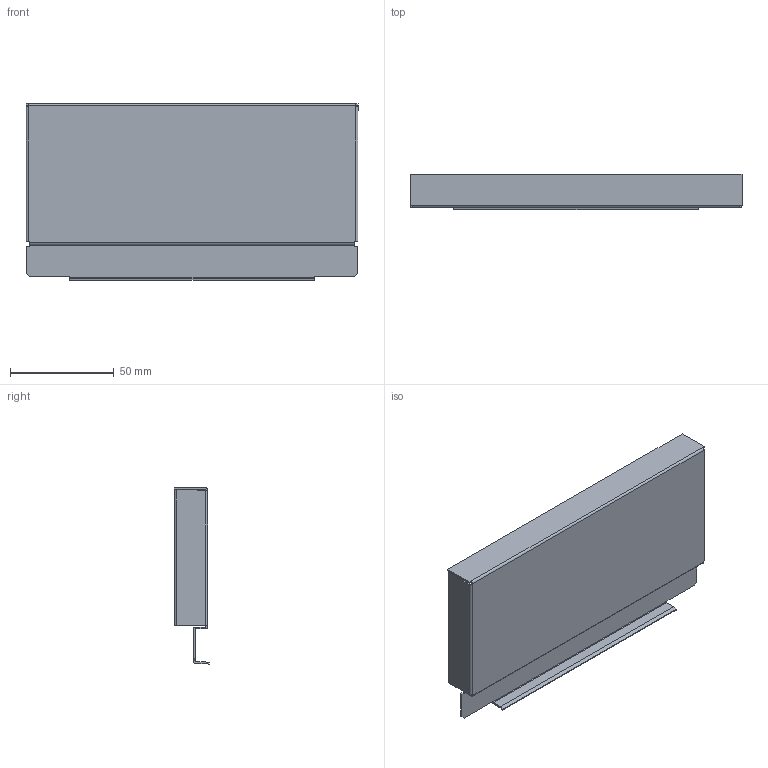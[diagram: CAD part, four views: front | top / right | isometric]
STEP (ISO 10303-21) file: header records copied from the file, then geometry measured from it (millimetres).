
FILE_DESCRIPTION (( 'STEP AP214' ), '1' );
FILE_NAME ('_STRW_H90_KAB_250.step', '2010-08-24T14:40:10', ( 'grass' ), ( '' ), 'SwSTEP 2.0', 'SolidWorks 2009', '' );
FILE_SCHEMA (( 'AUTOMOTIVE_DESIGN' ));
Length unit declared in the file: millimetre
Products named in the file (1): _STRW_H90_KAB_250
Bounding box: 160 x 17 x 85.14 mm (x, y, z)
Volume: 16149.8 mm3; surface area: 40888.4 mm2
Topology: 1 solids, 1 shells, 76 faces, 214 edges, 140 vertices
Faces by surface type: plane 54, cylinder 22
Entity records: 2472 total; most frequent: CARTESIAN_POINT 431, ORIENTED_EDGE 428, DIRECTION 412, EDGE_CURVE 214, LINE 170, VECTOR 170, VERTEX_POINT 140, AXIS2_PLACEMENT_3D 121
